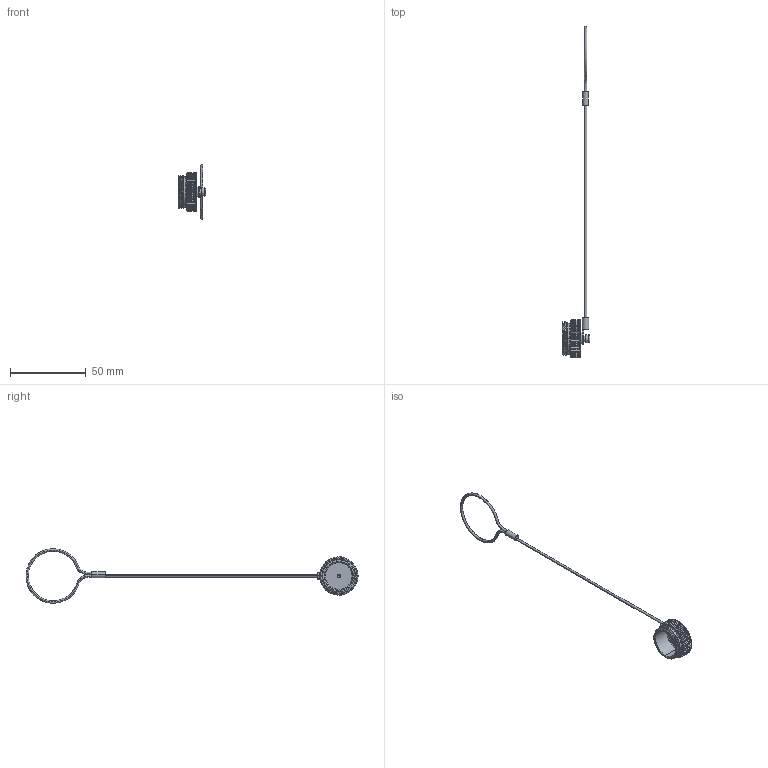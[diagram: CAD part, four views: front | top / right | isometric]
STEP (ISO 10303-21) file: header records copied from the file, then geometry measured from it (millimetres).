
FILE_DESCRIPTION (( 'STEP AP214' ), '1' );
FILE_NAME ('MIN-PLUG-CBLY.STEP', '2020-08-11T13:21:35', ( '' ), ( '' ), 'SwSTEP 2.0', 'SolidWorks 2018', '' );
FILE_SCHEMA (( 'AUTOMOTIVE_DESIGN' ));
Length unit declared in the file: millimetre
Products named in the file (2): MIN-PLUG-CBLY
Bounding box: 18.48 x 219.31 x 35.88 mm (x, y, z)
Volume: 3116.5 mm3; surface area: 4599.8 mm2
Topology: 1 solids, 2 shells, 288 faces, 802 edges, 529 vertices
Faces by surface type: plane 150, cylinder 105, cone 18, bspline 9, torus 6
Entity records: 15017 total; most frequent: CARTESIAN_POINT 4897, ORIENTED_EDGE 1604, DIRECTION 1291, EDGE_CURVE 802, VERTEX_POINT 529, AXIS2_PLACEMENT_3D 518, EDGE_LOOP 303, B_SPLINE_CURVE_WITH_KNOTS 299
